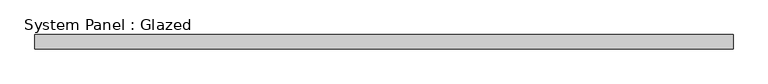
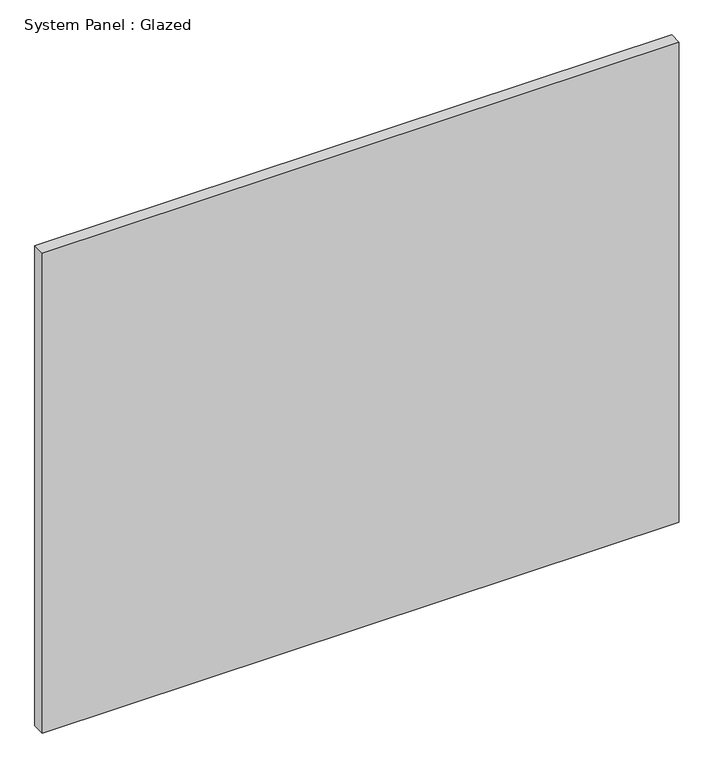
"""IFC4 building model written with IfcOpenShell, lengths in millimetres: plate geometry, System Panel : Glazed."""

from ifc_helpers import new_model, si_unit, origin, origin_with_axes, place, context, project, spatial, polyline, outline, extrude, source, transform, mapped, element, save


def system_panel_glazed_20414516(model_context):
    return source(origin(), model_context, "Body", "SweptSolid", [
        extrude(outline(polyline([(628.3695429, 19.05), (-628.3695429, 19.05), (-628.3695429, 44.45), (628.3695429, 44.45), (628.3695429, 19.05)])), origin_with_axes(), (0.0, 0.0, 1.0), 1000.6193103),
    ])


if __name__ == "__main__":
    model = new_model("IFC4")
    model_context = context("Model", 3, world=origin())
    ifc_project = project(units=[si_unit("LENGTHUNIT", "METRE", prefix="MILLI")], contexts=[model_context])
    site = spatial("IfcSite", under=ifc_project)
    building = spatial("IfcBuilding", under=site)
    placement = place(None, origin())
    system_panel_glazed_shape = system_panel_glazed_20414516(model_context)
    element("IfcPlate", 1, ObjectType="System Panel : Glazed", at=placement, inside=building, context=model_context, shape_type="MappedRepresentation", body=[
        mapped(system_panel_glazed_shape, transform((0.0, 0.0, 0.0), x_axis=(1.0, 0.0, 0.0), y_axis=(0.0, 1.0, 0.0), z_axis=(0.0, 0.0, 1.0))),
    ])
    save(model, "model.ifc")
